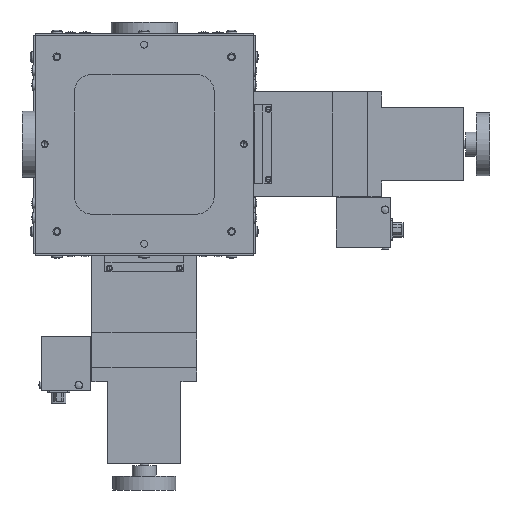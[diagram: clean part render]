
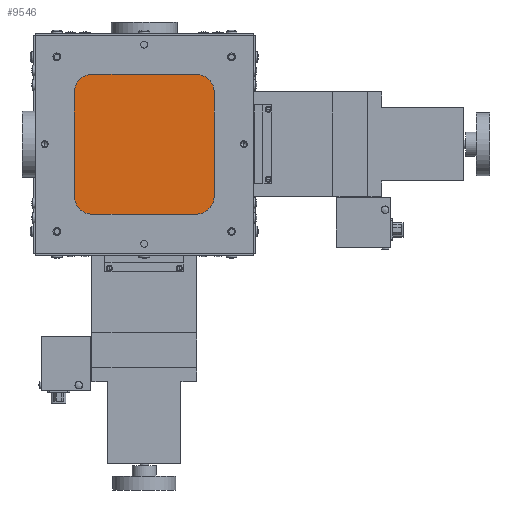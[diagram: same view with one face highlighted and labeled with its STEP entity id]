
A CAD part, front view. The second image highlights one B-rep face of the part: STEP entity #9546.
In plain terms, the highlighted planar face has unit normal (0, -1, 0).
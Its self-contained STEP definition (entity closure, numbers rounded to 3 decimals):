
#51 = VERTEX_POINT ( 'NONE', #10087 ) ;
#1055 = VERTEX_POINT ( 'NONE', #11193 ) ;
#1056 = VERTEX_POINT ( 'NONE', #11197 ) ;
#1057 = VERTEX_POINT ( 'NONE', #11205 ) ;
#1058 = VERTEX_POINT ( 'NONE', #11201 ) ;
#8097 = EDGE_LOOP ( 'NONE', ( #16530, #16528, #16526, #16524, #16522, #16520, #16518, #16516 ) ) ;
#8465 = VERTEX_POINT ( 'NONE', #27909 ) ;
#9546 = ADVANCED_FACE ( 'NONE', ( #30616 ), #30617, .T. ) ;
#9627 = EDGE_CURVE ( 'NONE', #10101, #1055, #27539, .T. ) ;
#9628 = EDGE_CURVE ( 'NONE', #10107, #10101, #30859, .T. ) ;
#9629 = EDGE_CURVE ( 'NONE', #1056, #10107, #27583, .T. ) ;
#9630 = EDGE_CURVE ( 'NONE', #51, #1056, #30865, .T. ) ;
#9631 = EDGE_CURVE ( 'NONE', #8465, #51, #27586, .T. ) ;
#9632 = EDGE_CURVE ( 'NONE', #1057, #8465, #30871, .T. ) ;
#9633 = EDGE_CURVE ( 'NONE', #1058, #1057, #27589, .T. ) ;
#9634 = EDGE_CURVE ( 'NONE', #1055, #1058, #30877, .T. ) ;
#10087 = CARTESIAN_POINT ( 'NONE',  ( -40., 1., -30. ) ) ;
#10101 = VERTEX_POINT ( 'NONE', #31422 ) ;
#10107 = VERTEX_POINT ( 'NONE', #31428 ) ;
#11193 = CARTESIAN_POINT ( 'NONE',  ( 40., 1., 30. ) ) ;
#11197 = CARTESIAN_POINT ( 'NONE',  ( -40., 1., 30. ) ) ;
#11201 = CARTESIAN_POINT ( 'NONE',  ( 40., 1., -30. ) ) ;
#11205 = CARTESIAN_POINT ( 'NONE',  ( 30., 1., -40. ) ) ;
#16516 = ORIENTED_EDGE ( 'NONE', *, *, #9634, .F. ) ;
#16518 = ORIENTED_EDGE ( 'NONE', *, *, #9633, .F. ) ;
#16520 = ORIENTED_EDGE ( 'NONE', *, *, #9632, .F. ) ;
#16522 = ORIENTED_EDGE ( 'NONE', *, *, #9631, .F. ) ;
#16524 = ORIENTED_EDGE ( 'NONE', *, *, #9630, .F. ) ;
#16526 = ORIENTED_EDGE ( 'NONE', *, *, #9629, .F. ) ;
#16528 = ORIENTED_EDGE ( 'NONE', *, *, #9628, .F. ) ;
#16530 = ORIENTED_EDGE ( 'NONE', *, *, #9627, .F. ) ;
#27302 = AXIS2_PLACEMENT_3D ( 'NONE', #30612, #30618, #30619 ) ;
#27539 = CIRCLE ( 'NONE', #27584, 10. ) ;
#27581 = VECTOR ( 'NONE', #30864, 1000. ) ;
#27583 = CIRCLE ( 'NONE', #27587, 10. ) ;
#27584 = AXIS2_PLACEMENT_3D ( 'NONE', #30860, #30861, #30862 ) ;
#27585 = VECTOR ( 'NONE', #30870, 1000. ) ;
#27586 = CIRCLE ( 'NONE', #27590, 10. ) ;
#27587 = AXIS2_PLACEMENT_3D ( 'NONE', #30866, #30867, #30868 ) ;
#27588 = VECTOR ( 'NONE', #30876, 1000. ) ;
#27589 = CIRCLE ( 'NONE', #27593, 10. ) ;
#27590 = AXIS2_PLACEMENT_3D ( 'NONE', #30872, #30873, #30874 ) ;
#27591 = VECTOR ( 'NONE', #30881, 1000. ) ;
#27593 = AXIS2_PLACEMENT_3D ( 'NONE', #30878, #30879, #30880 ) ;
#27909 = CARTESIAN_POINT ( 'NONE',  ( -30., 1., -40. ) ) ;
#30612 = CARTESIAN_POINT ( 'NONE',  ( 30., 1., 30. ) ) ;
#30616 = FACE_OUTER_BOUND ( 'NONE', #8097, .T. ) ;
#30617 = PLANE ( 'NONE',  #27302 ) ;
#30618 = DIRECTION ( 'NONE',  ( 0., -1., 0. ) ) ;
#30619 = DIRECTION ( 'NONE',  ( 0., 0., -1. ) ) ;
#30855 = CARTESIAN_POINT ( 'NONE',  ( 30., 1., 40. ) ) ;
#30859 = LINE ( 'NONE', #30855, #27581 ) ;
#30860 = CARTESIAN_POINT ( 'NONE',  ( 30., 1., 30. ) ) ;
#30861 = DIRECTION ( 'NONE',  ( 0., 1., 0. ) ) ;
#30862 = DIRECTION ( 'NONE',  ( 0., 0., -1. ) ) ;
#30863 = CARTESIAN_POINT ( 'NONE',  ( -40., 1., -30. ) ) ;
#30864 = DIRECTION ( 'NONE',  ( 1., 0., 0. ) ) ;
#30865 = LINE ( 'NONE', #30863, #27585 ) ;
#30866 = CARTESIAN_POINT ( 'NONE',  ( -30., 1., 30. ) ) ;
#30867 = DIRECTION ( 'NONE',  ( 0., 1., 0. ) ) ;
#30868 = DIRECTION ( 'NONE',  ( 0., 0., -1. ) ) ;
#30869 = CARTESIAN_POINT ( 'NONE',  ( 30., 1., -40. ) ) ;
#30870 = DIRECTION ( 'NONE',  ( 0., 0., 1. ) ) ;
#30871 = LINE ( 'NONE', #30869, #27588 ) ;
#30872 = CARTESIAN_POINT ( 'NONE',  ( -30., 1., -30. ) ) ;
#30873 = DIRECTION ( 'NONE',  ( 0., 1., 0. ) ) ;
#30874 = DIRECTION ( 'NONE',  ( 0., 0., -1. ) ) ;
#30875 = CARTESIAN_POINT ( 'NONE',  ( 40., 1., -30. ) ) ;
#30876 = DIRECTION ( 'NONE',  ( -1., 0., 0. ) ) ;
#30877 = LINE ( 'NONE', #30875, #27591 ) ;
#30878 = CARTESIAN_POINT ( 'NONE',  ( 30., 1., -30. ) ) ;
#30879 = DIRECTION ( 'NONE',  ( 0., 1., 0. ) ) ;
#30880 = DIRECTION ( 'NONE',  ( 0., 0., -1. ) ) ;
#30881 = DIRECTION ( 'NONE',  ( 0., 0., -1. ) ) ;
#31422 = CARTESIAN_POINT ( 'NONE',  ( 30., 1., 40. ) ) ;
#31428 = CARTESIAN_POINT ( 'NONE',  ( -30., 1., 40. ) ) ;
